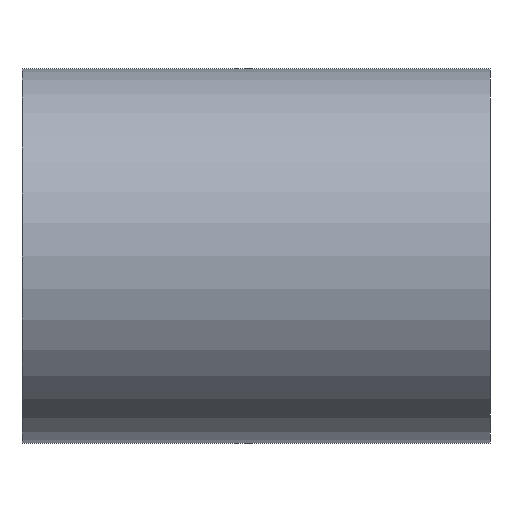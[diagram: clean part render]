
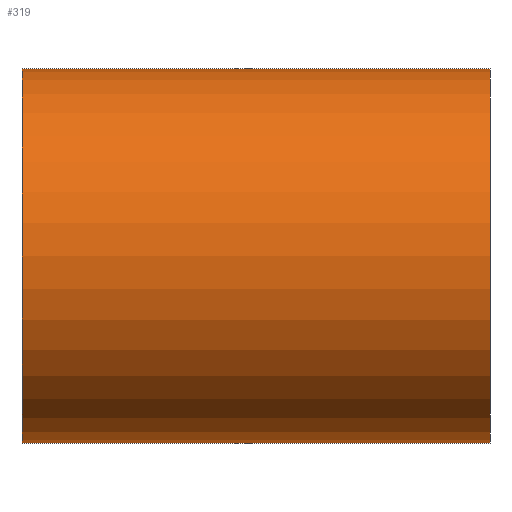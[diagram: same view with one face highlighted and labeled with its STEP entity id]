
A CAD part, front view. The second image highlights one B-rep face of the part: STEP entity #319.
In plain terms, the highlighted cylindrical face has radius 4 mm (diameter 8 mm), a full revolution.
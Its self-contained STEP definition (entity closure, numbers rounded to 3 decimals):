
#319 = ADVANCED_FACE( '', ( #692, #693 ), #694, .T. );
#692 = FACE_OUTER_BOUND( '', #1130, .T. );
#693 = FACE_OUTER_BOUND( '', #1131, .T. );
#694 = CYLINDRICAL_SURFACE( '', #1132, 4. );
#1130 = EDGE_LOOP( '', ( #2494 ) );
#1131 = EDGE_LOOP( '', ( #2495 ) );
#1132 = AXIS2_PLACEMENT_3D( '', #2496, #2497, #2498 );
#2494 = ORIENTED_EDGE( '', *, *, #2917, .T. );
#2495 = ORIENTED_EDGE( '', *, *, #3226, .F. );
#2496 = CARTESIAN_POINT( '', ( 10., 0., 0. ) );
#2497 = DIRECTION( '', ( -1., 0., 0. ) );
#2498 = DIRECTION( '', ( 0., 0., -1. ) );
#2917 = EDGE_CURVE( '', #3507, #3507, #3508, .T. );
#3226 = EDGE_CURVE( '', #3996, #3996, #3997, .T. );
#3507 = VERTEX_POINT( '', #4375 );
#3508 = CIRCLE( '', #4376, 4. );
#3996 = VERTEX_POINT( '', #5100 );
#3997 = CIRCLE( '', #5101, 4. );
#4375 = CARTESIAN_POINT( '', ( 0., 0., -4. ) );
#4376 = AXIS2_PLACEMENT_3D( '', #5481, #5482, #5483 );
#5100 = CARTESIAN_POINT( '', ( 10., 0., -4. ) );
#5101 = AXIS2_PLACEMENT_3D( '', #5936, #5937, #5938 );
#5481 = CARTESIAN_POINT( '', ( 0., 0., 0. ) );
#5482 = DIRECTION( '', ( 1., 0., 0. ) );
#5483 = DIRECTION( '', ( 0., 0., -1. ) );
#5936 = CARTESIAN_POINT( '', ( 10., 0., 0. ) );
#5937 = DIRECTION( '', ( 1., 0., 0. ) );
#5938 = DIRECTION( '', ( 0., 0., -1. ) );
